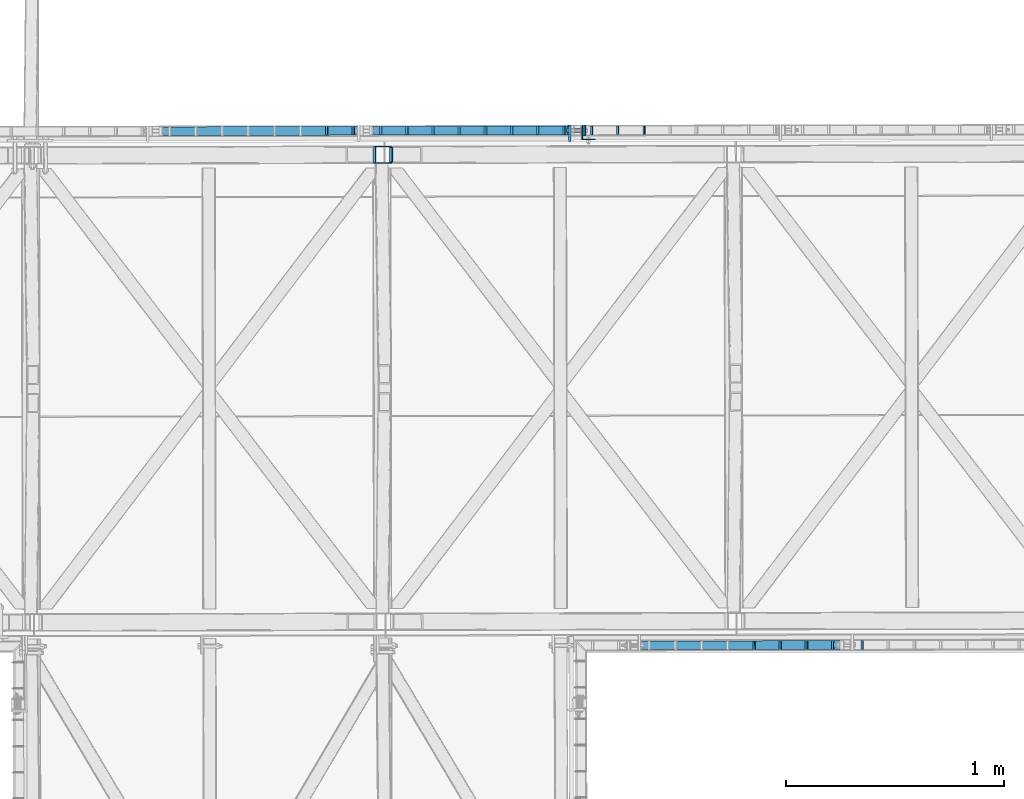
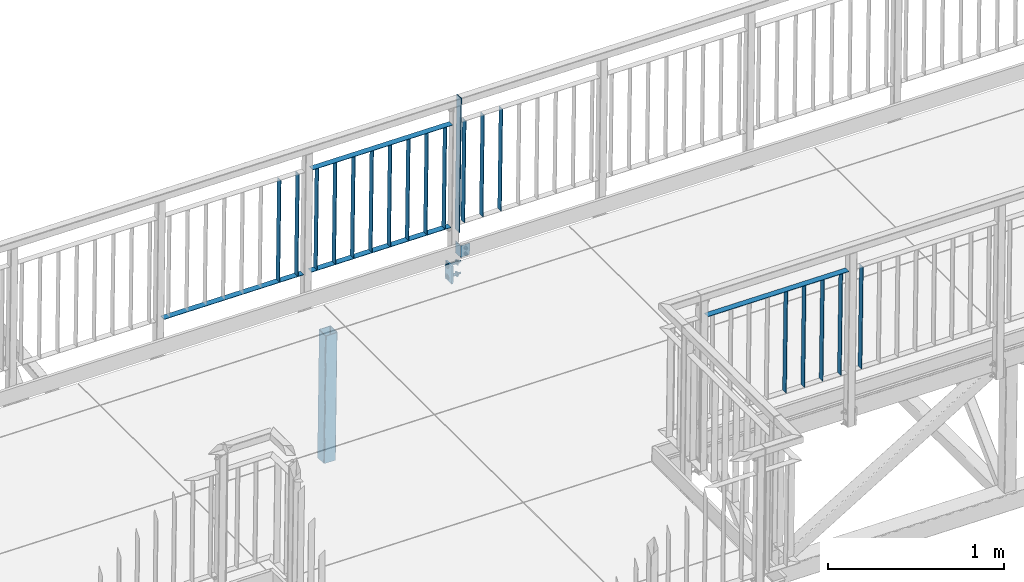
# One storey, part 113 of 169: 26 discrete accessories, 1 mechanical fastener, 3 elements without a shape of their own.
"""IFC2X3 building model written with IfcOpenShell, lengths in millimetres."""

from ifc_helpers import new_model, si_unit, frame, origin_with_axes, origin_2d_with_axis, place, context, subcontext, project, spatial, polyline, rectangle, hollow_rectangle, circle, l_section, outline, extrude, boolean, clip, halfspace, source, transform, mapped, material, type_object, element, aggregate, save


model = new_model("IFC2X3")

# Units and contexts
model_context = context("Model", 3, precision=1e-05, world=origin_with_axes())
body_context = subcontext(model_context, "Body", "Model", "MODEL_VIEW")
ifc_project = project(units=[si_unit("LENGTHUNIT", "METRE", prefix="MILLI"), si_unit("AREAUNIT", "SQUARE_METRE"), si_unit("VOLUMEUNIT", "CUBIC_METRE"), si_unit("MASSUNIT", "GRAM", prefix="KILO"), si_unit("TIMEUNIT", "SECOND"), si_unit("PLANEANGLEUNIT", "RADIAN"), si_unit("SOLIDANGLEUNIT", "STERADIAN"), si_unit("THERMODYNAMICTEMPERATUREUNIT", "DEGREE_CELSIUS"), si_unit("LUMINOUSINTENSITYUNIT", "LUMEN")], contexts=[model_context])

# Site, building, storey
site_placement = place(None, origin_with_axes())
site = spatial("IfcSite", under=ifc_project, at=site_placement, Name="Undefined", CompositionType="ELEMENT")
building_placement = place(site_placement, origin_with_axes())
building = spatial("IfcBuilding", under=site, at=building_placement, Name="Undefined", CompositionType="ELEMENT")
storey_placement = place(building_placement, origin_with_axes())
storey = spatial("IfcBuildingStorey", under=building, at=storey_placement, Name="Undefined", CompositionType="ELEMENT", Elevation=0.0)

# Assembly, discrete accessory
assembly_1_placement = place(storey_placement, origin_with_axes())
assembly_1 = element("IfcElementAssembly", 1, at=assembly_1_placement, inside=storey, Name="Steel Assembly", AssemblyPlace="NOTDEFINED", PredefinedType="RIGID_FRAME")
ifc_material_1 = material(Name="STEEL/S235")
discrete_accessory_type_1 = type_object("IfcDiscreteAccessoryType", Name="BLACHA")
discrete_accessory_1_placement = place(assembly_1_placement, frame((10187.6681587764, 2324.01646528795, 13824.692284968), z_axis=(0.9999174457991, 0.00186469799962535, -0.0127131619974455), x_axis=(-0.0018648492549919, 0.999998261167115, -4.2996762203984e-08)))
discrete_accessory_1 = element("IfcDiscreteAccessory", 2, at=discrete_accessory_1_placement, type_object=discrete_accessory_type_1, material=ifc_material_1, Name="BLACHA", ObjectType="BL10*120", context=body_context, shape_type="SweptSolid", body=[
    extrude(outline(polyline([(-5.35749222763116e-11, -59.9999999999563), (5.3567816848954e-11, 59.9999999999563), (75.0000002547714, 59.9999999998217), (75.0000002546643, -60.0000000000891), (-5.35749222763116e-11, -59.9999999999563)])), frame((-1.81898926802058e-12, -1.18000176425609e-16, -5.00000000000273), z_axis=(0.0, 0.0, 1.0), x_axis=(1.0, 0.0, 0.0)), (0.0, 0.0, 1.0), 10.0),
])

# Assembly, discrete accessories
assembly_2_placement = place(storey_placement, origin_with_axes())
assembly_2 = element("IfcElementAssembly", 3, at=assembly_2_placement, inside=storey, Name="Steel Assembly", AssemblyPlace="NOTDEFINED", PredefinedType="RIGID_FRAME")
discrete_accessory_2_placement = place(assembly_2_placement, frame((10248.3162514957, 2399.12970514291, 14082.940343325), z_axis=(-0.999917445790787, -0.00186469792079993, 0.0127131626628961), x_axis=(0.00186484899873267, -0.999998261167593, 4.28757666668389e-08)))
discrete_accessory_2 = element("IfcDiscreteAccessory", 4, at=discrete_accessory_2_placement, type_object=discrete_accessory_type_1, material=ifc_material_1, Name="BLACHA", ObjectType="BL5*50", context=body_context, shape_type="SweptSolid", body=[
    extrude(outline(polyline([(0.0, 0.0), (50.0000000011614, 3.27418092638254e-11), (50.0000000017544, 926.000000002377), (3.10365066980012e-08, 926.000000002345), (0.0, 0.0)])), frame((6.80888809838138e-19, -2.87858853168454e-21, -2.49999999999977), z_axis=(0.0, 0.0, 1.0), x_axis=(1.0, 0.0, 0.0)), (0.0, 0.0, 1.0), 5.0),
])
discrete_accessory_type_2 = type_object("IfcDiscreteAccessoryType", Name="BEAM")
discrete_accessory_3_placement = place(assembly_2_placement, frame((10273.8634563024, 2361.17727412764, 13923.6035833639), z_axis=(0.012713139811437, 2.3750999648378e-05, 0.999919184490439), x_axis=(0.9999174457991, 0.00186469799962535, -0.0127131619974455)))
discrete_accessory_3 = element("IfcDiscreteAccessory", 5, at=discrete_accessory_3_placement, type_object=discrete_accessory_type_2, material=ifc_material_1, Name="BEAM", ObjectType="L60*3", context=body_context, shape_type="SweptSolid", body=[
    extrude(l_section(Depth=60.0, Width=60.0, Thickness=3.0, FilletRadius=4.5, at=origin_2d_with_axis()), frame((-1.81898940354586e-12, 2.86403015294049e-19, 80.0000000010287), z_axis=(-2.54700353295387e-10, 0.0, -1.0), x_axis=(0.0, 1.0, 0.0)), (0.0, 0.0, 1.0), 80.0),
])

# Discrete accessory
ifc_material_2 = material(Name="STEEL/S355")
discrete_accessory_4_placement = place(assembly_1_placement, frame((9325.85926292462, 2262.4092764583, 12835.5699974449), z_axis=(-0.999917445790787, -0.00186469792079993, 0.0127131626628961), x_axis=(0.012713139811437, 2.3750999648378e-05, 0.999919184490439)))
discrete_accessory_4 = element("IfcDiscreteAccessory", 6, at=discrete_accessory_4_placement, type_object=discrete_accessory_type_2, material=ifc_material_2, Name="BEAM", ObjectType="K80/4", context=body_context, shape_type="Clipping", body=[
    clip(clip(extrude(hollow_rectangle(XDim=80.0, YDim=80.0, WallThickness=4.0, InnerFilletRadius=4.0, OuterFilletRadius=8.0, at=origin_2d_with_axis()), frame((940.000112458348, 4.54747487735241e-13, 0.0), z_axis=(-1.0, -3.46944695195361e-18, -1.38777878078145e-17), x_axis=(1.73472347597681e-18, -1.0, 0.0)), (0.0, 0.0, 1.0), 880.0), halfspace(frame((940.000112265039, -6.72889655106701e-09, 999.999999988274), z_axis=(-1.0, -3.46944695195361e-18, -1.38777878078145e-17), x_axis=(1.73472347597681e-18, -1.0, 0.0)), True)), halfspace(frame((60.0001122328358, 8.14088707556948e-09, 1000.00000001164), z_axis=(1.0, 0.0, 0.0), x_axis=(0.0, 1.0, 0.0)), True)),
])

aggregate(assembly_1, [discrete_accessory_1, discrete_accessory_4])

# Assembly, discrete accessory
assembly_3_placement = place(storey_placement, origin_with_axes())
assembly_3 = element("IfcElementAssembly", 7, at=assembly_3_placement, inside=storey, Name="Steel Assembly", AssemblyPlace="NOTDEFINED", PredefinedType="RIGID_FRAME")
discrete_accessory_type_3 = type_object("IfcDiscreteAccessoryType", Name="PORĘCZ")
discrete_accessory_5_placement = place(assembly_3_placement, frame((11534.6831120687, 16.5244800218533, 14967.7146750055), z_axis=(-0.0018648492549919, 0.999998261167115, -4.2996762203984e-08), x_axis=(-0.012713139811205, -2.37511238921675e-05, -0.999919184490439)))
discrete_accessory_5 = element("IfcDiscreteAccessory", 8, at=discrete_accessory_5_placement, type_object=discrete_accessory_type_3, material=ifc_material_1, Name="PORĘCZ", ObjectType="BL40*3", context=body_context, shape_type="Clipping", body=[
    clip(clip(extrude(rectangle(XDim=3.0, YDim=40.0, at=origin_2d_with_axis()), frame((848.500000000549, 1.47191286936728e-15, -8.89750592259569e-16), z_axis=(-1.0, -3.46944695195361e-18, -1.38777878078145e-17), x_axis=(1.73472347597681e-18, -1.0, 0.0)), (0.0, 0.0, 1.0), 702.0), halfspace(frame((848.499999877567, 4.522007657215e-09, 1000.00000000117), z_axis=(-1.0, -3.46944695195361e-18, -1.38777878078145e-17), x_axis=(1.73472347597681e-18, -1.0, 0.0)), True)), halfspace(frame((146.499999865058, 4.97311702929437e-09, 1000.00000000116), z_axis=(1.0, 0.0, 0.0), x_axis=(0.0, 1.0, 0.0)), True)),
])

# Discrete accessory
discrete_accessory_6_placement = place(assembly_2_placement, frame((9263.86162291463, 2372.29383204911, 14851.5186030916), z_axis=(-0.012713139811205, -2.37511238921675e-05, -0.999919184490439), x_axis=(0.9999174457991, 0.00186469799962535, -0.0127131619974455)))
discrete_accessory_6 = element("IfcDiscreteAccessory", 9, at=discrete_accessory_6_placement, type_object=discrete_accessory_type_3, material=ifc_material_1, Name="PORĘCZ", ObjectType="BL40*3", context=body_context, shape_type="CSG", body=[
    boolean("DIFFERENCE", boolean("DIFFERENCE", extrude(outline(polyline([(25.4999999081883, 20.0000000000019), (941.194458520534, 20.0000000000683), (941.194458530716, -19.9999999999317), (25.499999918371, -19.9999999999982), (25.4999999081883, 20.0000000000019)])), frame((1.81898940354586e-12, -1.77635442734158e-15, -1.50000000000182), z_axis=(0.0, 0.0, 1.0), x_axis=(1.0, 0.0, 0.0)), (0.0, 0.0, 1.0), 3.0), extrude(rectangle(XDim=51.0, YDim=51.0, at=origin_2d_with_axis()), frame((-5.94487782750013e-08, -4.65977194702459e-09, -139.999999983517), z_axis=(0.0, 0.0, 1.0), x_axis=(1.0, 0.0, 0.0)), (0.0, 0.0, 1.0), 280.0)), extrude(rectangle(XDim=51.0, YDim=51.0, at=origin_2d_with_axis()), frame((966.694458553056, -6.96000839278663e-09, -139.999999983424), z_axis=(0.0, 0.0, 1.0), x_axis=(1.0, 0.0, 0.0)), (0.0, 0.0, 1.0), 280.0)),
])

discrete_accessory_7_placement = place(assembly_2_placement, frame((9082.37293483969, 2371.95538875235, 14998.8378078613), z_axis=(0.00186484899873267, -0.999998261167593, 4.28757666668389e-08), x_axis=(-0.012713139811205, -2.37511238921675e-05, -0.999919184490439)))
discrete_accessory_7 = element("IfcDiscreteAccessory", 10, at=discrete_accessory_7_placement, type_object=discrete_accessory_type_3, material=ifc_material_1, Name="PORĘCZ", ObjectType="BL40*3", context=body_context, shape_type="Clipping", body=[
    clip(clip(extrude(rectangle(XDim=3.0, YDim=40.0, at=origin_2d_with_axis()), frame((848.500000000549, 1.47191286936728e-15, -8.89750592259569e-16), z_axis=(-1.0, -3.46944695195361e-18, -1.38777878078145e-17), x_axis=(1.73472347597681e-18, -1.0, 0.0)), (0.0, 0.0, 1.0), 702.0), halfspace(frame((848.499999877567, 4.522007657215e-09, 1000.00000000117), z_axis=(-1.0, -3.46944695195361e-18, -1.38777878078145e-17), x_axis=(1.73472347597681e-18, -1.0, 0.0)), True)), halfspace(frame((146.499999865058, 4.97311702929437e-09, 1000.00000000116), z_axis=(1.0, 0.0, 0.0), x_axis=(0.0, 1.0, 0.0)), True)),
])

discrete_accessory_8_placement = place(assembly_2_placement, frame((9202.36302833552, 2372.17915251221, 14997.3122284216), z_axis=(0.00186484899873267, -0.999998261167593, 4.28757666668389e-08), x_axis=(-0.012713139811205, -2.37511238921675e-05, -0.999919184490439)))
discrete_accessory_8 = element("IfcDiscreteAccessory", 11, at=discrete_accessory_8_placement, type_object=discrete_accessory_type_3, material=ifc_material_1, Name="PORĘCZ", ObjectType="BL40*3", context=body_context, shape_type="Clipping", body=[
    clip(clip(extrude(rectangle(XDim=3.0, YDim=40.0, at=origin_2d_with_axis()), frame((848.500000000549, 1.47191286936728e-15, -8.89750592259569e-16), z_axis=(-1.0, -3.46944695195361e-18, -1.38777878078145e-17), x_axis=(1.73472347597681e-18, -1.0, 0.0)), (0.0, 0.0, 1.0), 702.0), halfspace(frame((848.499999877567, 4.522007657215e-09, 1000.00000000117), z_axis=(-1.0, -3.46944695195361e-18, -1.38777878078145e-17), x_axis=(1.73472347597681e-18, -1.0, 0.0)), True)), halfspace(frame((146.499999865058, 4.97311702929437e-09, 1000.00000000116), z_axis=(1.0, 0.0, 0.0), x_axis=(0.0, 1.0, 0.0)), True)),
])

discrete_accessory_9_placement = place(assembly_2_placement, frame((9329.04702779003, 2372.41539941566, 14995.7015412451), z_axis=(0.00186484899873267, -0.999998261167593, 4.28757666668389e-08), x_axis=(-0.012713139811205, -2.37511238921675e-05, -0.999919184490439)))
discrete_accessory_9 = element("IfcDiscreteAccessory", 12, at=discrete_accessory_9_placement, type_object=discrete_accessory_type_3, material=ifc_material_1, Name="PORĘCZ", ObjectType="BL40*3", context=body_context, shape_type="Clipping", body=[
    clip(clip(extrude(rectangle(XDim=3.0, YDim=40.0, at=origin_2d_with_axis()), frame((848.500000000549, 1.47191286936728e-15, -8.89750592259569e-16), z_axis=(-1.0, -3.46944695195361e-18, -1.38777878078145e-17), x_axis=(1.73472347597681e-18, -1.0, 0.0)), (0.0, 0.0, 1.0), 702.0), halfspace(frame((848.499999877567, 4.522007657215e-09, 1000.00000000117), z_axis=(-1.0, -3.46944695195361e-18, -1.38777878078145e-17), x_axis=(1.73472347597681e-18, -1.0, 0.0)), True)), halfspace(frame((146.499999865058, 4.97311702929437e-09, 1000.00000000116), z_axis=(1.0, 0.0, 0.0), x_axis=(0.0, 1.0, 0.0)), True)),
])

discrete_accessory_10_placement = place(assembly_2_placement, frame((9449.03712128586, 2372.63916317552, 14994.1759618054), z_axis=(0.00186484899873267, -0.999998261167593, 4.28757666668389e-08), x_axis=(-0.012713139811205, -2.37511238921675e-05, -0.999919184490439)))
discrete_accessory_10 = element("IfcDiscreteAccessory", 13, at=discrete_accessory_10_placement, type_object=discrete_accessory_type_3, material=ifc_material_1, Name="PORĘCZ", ObjectType="BL40*3", context=body_context, shape_type="Clipping", body=[
    clip(clip(extrude(rectangle(XDim=3.0, YDim=40.0, at=origin_2d_with_axis()), frame((848.500000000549, 1.47191286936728e-15, -8.89750592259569e-16), z_axis=(-1.0, -3.46944695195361e-18, -1.38777878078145e-17), x_axis=(1.73472347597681e-18, -1.0, 0.0)), (0.0, 0.0, 1.0), 702.0), halfspace(frame((848.499999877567, 4.522007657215e-09, 1000.00000000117), z_axis=(-1.0, -3.46944695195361e-18, -1.38777878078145e-17), x_axis=(1.73472347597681e-18, -1.0, 0.0)), True)), halfspace(frame((146.499999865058, 4.97311702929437e-09, 1000.00000000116), z_axis=(1.0, 0.0, 0.0), x_axis=(0.0, 1.0, 0.0)), True)),
])

discrete_accessory_11_placement = place(assembly_2_placement, frame((9569.02721478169, 2372.86292693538, 14992.6503823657), z_axis=(0.00186484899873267, -0.999998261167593, 4.28757666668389e-08), x_axis=(-0.012713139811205, -2.37511238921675e-05, -0.999919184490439)))
discrete_accessory_11 = element("IfcDiscreteAccessory", 14, at=discrete_accessory_11_placement, type_object=discrete_accessory_type_3, material=ifc_material_1, Name="PORĘCZ", ObjectType="BL40*3", context=body_context, shape_type="Clipping", body=[
    clip(clip(extrude(rectangle(XDim=3.0, YDim=40.0, at=origin_2d_with_axis()), frame((848.500000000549, 1.47191286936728e-15, -8.89750592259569e-16), z_axis=(-1.0, -3.46944695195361e-18, -1.38777878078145e-17), x_axis=(1.73472347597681e-18, -1.0, 0.0)), (0.0, 0.0, 1.0), 702.0), halfspace(frame((848.499999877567, 4.522007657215e-09, 1000.00000000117), z_axis=(-1.0, -3.46944695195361e-18, -1.38777878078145e-17), x_axis=(1.73472347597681e-18, -1.0, 0.0)), True)), halfspace(frame((146.499999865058, 4.97311702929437e-09, 1000.00000000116), z_axis=(1.0, 0.0, 0.0), x_axis=(0.0, 1.0, 0.0)), True)),
])

discrete_accessory_12_placement = place(assembly_2_placement, frame((9689.01730827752, 2373.08669069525, 14991.124802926), z_axis=(0.00186484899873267, -0.999998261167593, 4.28757666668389e-08), x_axis=(-0.012713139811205, -2.37511238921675e-05, -0.999919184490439)))
discrete_accessory_12 = element("IfcDiscreteAccessory", 15, at=discrete_accessory_12_placement, type_object=discrete_accessory_type_3, material=ifc_material_1, Name="PORĘCZ", ObjectType="BL40*3", context=body_context, shape_type="Clipping", body=[
    clip(clip(extrude(rectangle(XDim=3.0, YDim=40.0, at=origin_2d_with_axis()), frame((848.500000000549, 1.47191286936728e-15, -8.89750592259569e-16), z_axis=(-1.0, -3.46944695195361e-18, -1.38777878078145e-17), x_axis=(1.73472347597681e-18, -1.0, 0.0)), (0.0, 0.0, 1.0), 702.0), halfspace(frame((848.499999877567, 4.522007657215e-09, 1000.00000000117), z_axis=(-1.0, -3.46944695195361e-18, -1.38777878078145e-17), x_axis=(1.73472347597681e-18, -1.0, 0.0)), True)), halfspace(frame((146.499999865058, 4.97311702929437e-09, 1000.00000000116), z_axis=(1.0, 0.0, 0.0), x_axis=(0.0, 1.0, 0.0)), True)),
])

discrete_accessory_13_placement = place(assembly_2_placement, frame((9809.00740177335, 2373.31045445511, 14989.5992234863), z_axis=(0.00186484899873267, -0.999998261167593, 4.28757666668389e-08), x_axis=(-0.012713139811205, -2.37511238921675e-05, -0.999919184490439)))
discrete_accessory_13 = element("IfcDiscreteAccessory", 16, at=discrete_accessory_13_placement, type_object=discrete_accessory_type_3, material=ifc_material_1, Name="PORĘCZ", ObjectType="BL40*3", context=body_context, shape_type="Clipping", body=[
    clip(clip(extrude(rectangle(XDim=3.0, YDim=40.0, at=origin_2d_with_axis()), frame((848.500000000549, 1.47191286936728e-15, -8.89750592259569e-16), z_axis=(-1.0, -3.46944695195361e-18, -1.38777878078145e-17), x_axis=(1.73472347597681e-18, -1.0, 0.0)), (0.0, 0.0, 1.0), 702.0), halfspace(frame((848.499999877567, 4.522007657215e-09, 1000.00000000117), z_axis=(-1.0, -3.46944695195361e-18, -1.38777878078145e-17), x_axis=(1.73472347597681e-18, -1.0, 0.0)), True)), halfspace(frame((146.499999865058, 4.97311702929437e-09, 1000.00000000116), z_axis=(1.0, 0.0, 0.0), x_axis=(0.0, 1.0, 0.0)), True)),
])

discrete_accessory_14_placement = place(assembly_2_placement, frame((9928.99749526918, 2373.53421821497, 14988.0736440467), z_axis=(0.00186484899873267, -0.999998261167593, 4.28757666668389e-08), x_axis=(-0.012713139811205, -2.37511238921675e-05, -0.999919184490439)))
discrete_accessory_14 = element("IfcDiscreteAccessory", 17, at=discrete_accessory_14_placement, type_object=discrete_accessory_type_3, material=ifc_material_1, Name="PORĘCZ", ObjectType="BL40*3", context=body_context, shape_type="Clipping", body=[
    clip(clip(extrude(rectangle(XDim=3.0, YDim=40.0, at=origin_2d_with_axis()), frame((848.500000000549, 1.47191286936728e-15, -8.89750592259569e-16), z_axis=(-1.0, -3.46944695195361e-18, -1.38777878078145e-17), x_axis=(1.73472347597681e-18, -1.0, 0.0)), (0.0, 0.0, 1.0), 702.0), halfspace(frame((848.499999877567, 4.522007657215e-09, 1000.00000000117), z_axis=(-1.0, -3.46944695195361e-18, -1.38777878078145e-17), x_axis=(1.73472347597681e-18, -1.0, 0.0)), True)), halfspace(frame((146.499999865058, 4.97311702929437e-09, 1000.00000000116), z_axis=(1.0, 0.0, 0.0), x_axis=(0.0, 1.0, 0.0)), True)),
])

discrete_accessory_15_placement = place(assembly_2_placement, frame((10048.987588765, 2373.75798197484, 14986.548064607), z_axis=(0.00186484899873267, -0.999998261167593, 4.28757666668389e-08), x_axis=(-0.012713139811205, -2.37511238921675e-05, -0.999919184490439)))
discrete_accessory_15 = element("IfcDiscreteAccessory", 18, at=discrete_accessory_15_placement, type_object=discrete_accessory_type_3, material=ifc_material_1, Name="PORĘCZ", ObjectType="BL40*3", context=body_context, shape_type="Clipping", body=[
    clip(clip(extrude(rectangle(XDim=3.0, YDim=40.0, at=origin_2d_with_axis()), frame((848.500000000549, 1.47191286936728e-15, -8.89750592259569e-16), z_axis=(-1.0, -3.46944695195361e-18, -1.38777878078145e-17), x_axis=(1.73472347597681e-18, -1.0, 0.0)), (0.0, 0.0, 1.0), 702.0), halfspace(frame((848.499999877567, 4.522007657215e-09, 1000.00000000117), z_axis=(-1.0, -3.46944695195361e-18, -1.38777878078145e-17), x_axis=(1.73472347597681e-18, -1.0, 0.0)), True)), halfspace(frame((146.499999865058, 4.97311702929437e-09, 1000.00000000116), z_axis=(1.0, 0.0, 0.0), x_axis=(0.0, 1.0, 0.0)), True)),
])

discrete_accessory_16_placement = place(assembly_2_placement, frame((10168.9776822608, 2373.9817457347, 14985.0224851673), z_axis=(0.00186484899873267, -0.999998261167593, 4.28757666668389e-08), x_axis=(-0.012713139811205, -2.37511238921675e-05, -0.999919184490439)))
discrete_accessory_16 = element("IfcDiscreteAccessory", 19, at=discrete_accessory_16_placement, type_object=discrete_accessory_type_3, material=ifc_material_1, Name="PORĘCZ", ObjectType="BL40*3", context=body_context, shape_type="Clipping", body=[
    clip(clip(extrude(rectangle(XDim=3.0, YDim=40.0, at=origin_2d_with_axis()), frame((848.500000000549, 1.47191286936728e-15, -8.89750592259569e-16), z_axis=(-1.0, -3.46944695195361e-18, -1.38777878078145e-17), x_axis=(1.73472347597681e-18, -1.0, 0.0)), (0.0, 0.0, 1.0), 702.0), halfspace(frame((848.499999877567, 4.522007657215e-09, 1000.00000000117), z_axis=(-1.0, -3.46944695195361e-18, -1.38777878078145e-17), x_axis=(1.73472347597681e-18, -1.0, 0.0)), True)), halfspace(frame((146.499999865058, 4.97311702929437e-09, 1000.00000000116), z_axis=(1.0, 0.0, 0.0), x_axis=(0.0, 1.0, 0.0)), True)),
])

discrete_accessory_17_placement = place(assembly_2_placement, frame((10295.6616817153, 2374.21799263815, 14983.4117979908), z_axis=(0.00186484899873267, -0.999998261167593, 4.28757666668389e-08), x_axis=(-0.012713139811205, -2.37511238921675e-05, -0.999919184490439)))
discrete_accessory_17 = element("IfcDiscreteAccessory", 20, at=discrete_accessory_17_placement, type_object=discrete_accessory_type_3, material=ifc_material_1, Name="PORĘCZ", ObjectType="BL40*3", context=body_context, shape_type="Clipping", body=[
    clip(clip(extrude(rectangle(XDim=3.0, YDim=40.0, at=origin_2d_with_axis()), frame((848.500000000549, 1.47191286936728e-15, -8.89750592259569e-16), z_axis=(-1.0, -3.46944695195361e-18, -1.38777878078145e-17), x_axis=(1.73472347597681e-18, -1.0, 0.0)), (0.0, 0.0, 1.0), 702.0), halfspace(frame((848.499999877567, 4.522007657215e-09, 1000.00000000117), z_axis=(-1.0, -3.46944695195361e-18, -1.38777878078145e-17), x_axis=(1.73472347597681e-18, -1.0, 0.0)), True)), halfspace(frame((146.499999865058, 4.97311702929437e-09, 1000.00000000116), z_axis=(1.0, 0.0, 0.0), x_axis=(0.0, 1.0, 0.0)), True)),
])

discrete_accessory_18_placement = place(assembly_2_placement, frame((10415.6517752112, 2374.44175639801, 14981.8862185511), z_axis=(0.00186484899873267, -0.999998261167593, 4.28757666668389e-08), x_axis=(-0.012713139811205, -2.37511238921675e-05, -0.999919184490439)))
discrete_accessory_18 = element("IfcDiscreteAccessory", 21, at=discrete_accessory_18_placement, type_object=discrete_accessory_type_3, material=ifc_material_1, Name="PORĘCZ", ObjectType="BL40*3", context=body_context, shape_type="Clipping", body=[
    clip(clip(extrude(rectangle(XDim=3.0, YDim=40.0, at=origin_2d_with_axis()), frame((848.500000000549, 1.47191286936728e-15, -8.89750592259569e-16), z_axis=(-1.0, -3.46944695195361e-18, -1.38777878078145e-17), x_axis=(1.73472347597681e-18, -1.0, 0.0)), (0.0, 0.0, 1.0), 702.0), halfspace(frame((848.499999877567, 4.522007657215e-09, 1000.00000000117), z_axis=(-1.0, -3.46944695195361e-18, -1.38777878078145e-17), x_axis=(1.73472347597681e-18, -1.0, 0.0)), True)), halfspace(frame((146.499999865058, 4.97311702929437e-09, 1000.00000000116), z_axis=(1.0, 0.0, 0.0), x_axis=(0.0, 1.0, 0.0)), True)),
])

discrete_accessory_19_placement = place(assembly_2_placement, frame((10535.641868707, 2374.66552015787, 14980.3606391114), z_axis=(0.00186484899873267, -0.999998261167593, 4.28757666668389e-08), x_axis=(-0.012713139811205, -2.37511238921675e-05, -0.999919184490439)))
discrete_accessory_19 = element("IfcDiscreteAccessory", 22, at=discrete_accessory_19_placement, type_object=discrete_accessory_type_3, material=ifc_material_1, Name="PORĘCZ", ObjectType="BL40*3", context=body_context, shape_type="Clipping", body=[
    clip(clip(extrude(rectangle(XDim=3.0, YDim=40.0, at=origin_2d_with_axis()), frame((848.500000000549, 1.47191286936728e-15, -8.89750592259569e-16), z_axis=(-1.0, -3.46944695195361e-18, -1.38777878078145e-17), x_axis=(1.73472347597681e-18, -1.0, 0.0)), (0.0, 0.0, 1.0), 702.0), halfspace(frame((848.499999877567, 4.522007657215e-09, 1000.00000000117), z_axis=(-1.0, -3.46944695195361e-18, -1.38777878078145e-17), x_axis=(1.73472347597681e-18, -1.0, 0.0)), True)), halfspace(frame((146.499999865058, 4.97311702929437e-09, 1000.00000000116), z_axis=(1.0, 0.0, 0.0), x_axis=(0.0, 1.0, 0.0)), True)),
])

discrete_accessory_20_placement = place(assembly_2_placement, frame((8288.28420541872, 2370.47449428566, 14158.8653212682), z_axis=(-0.012713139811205, -2.37511238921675e-05, -0.999919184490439), x_axis=(0.9999174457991, 0.00186469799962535, -0.0127131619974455)))
discrete_accessory_20 = element("IfcDiscreteAccessory", 23, at=discrete_accessory_20_placement, type_object=discrete_accessory_type_3, material=ifc_material_1, Name="PORĘCZ", ObjectType="BL40*3", context=body_context, shape_type="CSG", body=[
    boolean("DIFFERENCE", boolean("DIFFERENCE", extrude(outline(polyline([(25.4999999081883, 20.0000000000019), (941.194458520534, 20.0000000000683), (941.194458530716, -19.9999999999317), (25.499999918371, -19.9999999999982), (25.4999999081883, 20.0000000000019)])), frame((1.81898940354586e-12, -1.77635442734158e-15, -1.50000000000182), z_axis=(0.0, 0.0, 1.0), x_axis=(1.0, 0.0, 0.0)), (0.0, 0.0, 1.0), 3.0), extrude(rectangle(XDim=51.0, YDim=51.0, at=origin_2d_with_axis()), frame((-5.94487782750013e-08, -4.65977194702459e-09, -139.999999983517), z_axis=(0.0, 0.0, 1.0), x_axis=(1.0, 0.0, 0.0)), (0.0, 0.0, 1.0), 280.0)), extrude(rectangle(XDim=51.0, YDim=51.0, at=origin_2d_with_axis()), frame((966.694458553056, -6.96000839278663e-09, -139.999999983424), z_axis=(0.0, 0.0, 1.0), x_axis=(1.0, 0.0, 0.0)), (0.0, 0.0, 1.0), 280.0)),
])

discrete_accessory_21_placement = place(assembly_2_placement, frame((9254.8988593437, 2372.27708750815, 14146.5755780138), z_axis=(-0.012713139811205, -2.37511238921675e-05, -0.999919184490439), x_axis=(0.9999174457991, 0.00186469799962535, -0.0127131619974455)))
discrete_accessory_21 = element("IfcDiscreteAccessory", 24, at=discrete_accessory_21_placement, type_object=discrete_accessory_type_3, material=ifc_material_1, Name="PORĘCZ", ObjectType="BL40*3", context=body_context, shape_type="CSG", body=[
    boolean("DIFFERENCE", boolean("DIFFERENCE", extrude(outline(polyline([(25.4999999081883, 20.0000000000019), (941.194458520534, 20.0000000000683), (941.194458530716, -19.9999999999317), (25.499999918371, -19.9999999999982), (25.4999999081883, 20.0000000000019)])), frame((1.81898940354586e-12, -1.77635442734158e-15, -1.50000000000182), z_axis=(0.0, 0.0, 1.0), x_axis=(1.0, 0.0, 0.0)), (0.0, 0.0, 1.0), 3.0), extrude(rectangle(XDim=51.0, YDim=51.0, at=origin_2d_with_axis()), frame((-5.94487782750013e-08, -4.65977194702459e-09, -139.999999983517), z_axis=(0.0, 0.0, 1.0), x_axis=(1.0, 0.0, 0.0)), (0.0, 0.0, 1.0), 280.0)), extrude(rectangle(XDim=51.0, YDim=51.0, at=origin_2d_with_axis()), frame((966.694458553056, -6.96000839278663e-09, -139.999999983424), z_axis=(0.0, 0.0, 1.0), x_axis=(1.0, 0.0, 0.0)), (0.0, 0.0, 1.0), 280.0)),
])

discrete_accessory_22_placement = place(assembly_3_placement, frame((11475.3940756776, 16.4139084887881, 14823.4567691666), z_axis=(-0.012713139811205, -2.37511238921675e-05, -0.999919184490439), x_axis=(-0.999917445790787, -0.00186469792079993, 0.0127131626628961)))
discrete_accessory_22 = element("IfcDiscreteAccessory", 25, at=discrete_accessory_22_placement, type_object=discrete_accessory_type_3, material=ifc_material_1, Name="PORĘCZ", ObjectType="BL40*3", context=body_context, shape_type="CSG", body=[
    boolean("DIFFERENCE", boolean("DIFFERENCE", boolean("DIFFERENCE", boolean("DIFFERENCE", extrude(outline(polyline([(960.000000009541, -19.9999999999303), (35.0000000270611, -19.9999999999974), (35.0000000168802, 20.0000000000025), (959.999999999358, 20.0000000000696), (960.000000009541, -19.9999999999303)])), frame((1.81898940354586e-12, -1.77635442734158e-15, -1.50000000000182), z_axis=(0.0, 0.0, 1.0), x_axis=(1.0, 0.0, 0.0)), (0.0, 0.0, 1.0), 3.0), extrude(rectangle(XDim=51.0, YDim=51.0, at=origin_2d_with_axis()), frame((-5.94487782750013e-08, -4.65977194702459e-09, -139.999999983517), z_axis=(0.0, 0.0, 1.0), x_axis=(1.0, 0.0, 0.0)), (0.0, 0.0, 1.0), 280.0)), extrude(rectangle(XDim=51.0, YDim=51.0, at=origin_2d_with_axis()), frame((998.099252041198, 3.51939400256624e-08, -140.00000001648), z_axis=(0.0, 0.0, 1.0), x_axis=(1.0, 0.0, 0.0)), (0.0, 0.0, 1.0), 280.0)), halfspace(frame((34.9999997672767, 1000.00000000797, -5.00222085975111e-09), z_axis=(1.0, 0.0, 0.0), x_axis=(-2.54700353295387e-10, 0.0, -1.0)), True)), halfspace(frame((959.999999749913, 999.999999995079, 2.57205101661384e-09), z_axis=(-1.0, -3.46944695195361e-18, -1.38777878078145e-17), x_axis=(0.0, 0.0, 1.0)), True)),
])

discrete_accessory_23_placement = place(assembly_3_placement, frame((11399.6942568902, 16.2727457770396, 14969.4309518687), z_axis=(-0.0018648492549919, 0.999998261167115, -4.2996762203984e-08), x_axis=(-0.012713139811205, -2.37511238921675e-05, -0.999919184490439)))
discrete_accessory_23 = element("IfcDiscreteAccessory", 26, at=discrete_accessory_23_placement, type_object=discrete_accessory_type_3, material=ifc_material_1, Name="PORĘCZ", ObjectType="BL40*3", context=body_context, shape_type="Clipping", body=[
    clip(clip(extrude(rectangle(XDim=3.0, YDim=40.0, at=origin_2d_with_axis()), frame((848.500000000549, 1.47191286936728e-15, -8.89750592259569e-16), z_axis=(-1.0, -3.46944695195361e-18, -1.38777878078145e-17), x_axis=(1.73472347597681e-18, -1.0, 0.0)), (0.0, 0.0, 1.0), 702.0), halfspace(frame((848.499999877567, 4.522007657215e-09, 1000.00000000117), z_axis=(-1.0, -3.46944695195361e-18, -1.38777878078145e-17), x_axis=(1.73472347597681e-18, -1.0, 0.0)), True)), halfspace(frame((146.499999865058, 4.97311702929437e-09, 1000.00000000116), z_axis=(1.0, 0.0, 0.0), x_axis=(0.0, 1.0, 0.0)), True)),
])

discrete_accessory_24_placement = place(assembly_3_placement, frame((11279.7041633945, 16.0489820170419, 14970.9565313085), z_axis=(-0.0018648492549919, 0.999998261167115, -4.2996762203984e-08), x_axis=(-0.012713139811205, -2.37511238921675e-05, -0.999919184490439)))
discrete_accessory_24 = element("IfcDiscreteAccessory", 27, at=discrete_accessory_24_placement, type_object=discrete_accessory_type_3, material=ifc_material_1, Name="PORĘCZ", ObjectType="BL40*3", context=body_context, shape_type="Clipping", body=[
    clip(clip(extrude(rectangle(XDim=3.0, YDim=40.0, at=origin_2d_with_axis()), frame((848.500000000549, 1.47191286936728e-15, -8.89750592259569e-16), z_axis=(-1.0, -3.46944695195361e-18, -1.38777878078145e-17), x_axis=(1.73472347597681e-18, -1.0, 0.0)), (0.0, 0.0, 1.0), 702.0), halfspace(frame((848.499999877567, 4.522007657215e-09, 1000.00000000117), z_axis=(-1.0, -3.46944695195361e-18, -1.38777878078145e-17), x_axis=(1.73472347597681e-18, -1.0, 0.0)), True)), halfspace(frame((146.499999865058, 4.97311702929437e-09, 1000.00000000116), z_axis=(1.0, 0.0, 0.0), x_axis=(0.0, 1.0, 0.0)), True)),
])

discrete_accessory_25_placement = place(assembly_3_placement, frame((11159.7140698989, 15.8252182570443, 14972.4821107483), z_axis=(-0.0018648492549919, 0.999998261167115, -4.2996762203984e-08), x_axis=(-0.012713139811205, -2.37511238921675e-05, -0.999919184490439)))
discrete_accessory_25 = element("IfcDiscreteAccessory", 28, at=discrete_accessory_25_placement, type_object=discrete_accessory_type_3, material=ifc_material_1, Name="PORĘCZ", ObjectType="BL40*3", context=body_context, shape_type="Clipping", body=[
    clip(clip(extrude(rectangle(XDim=3.0, YDim=40.0, at=origin_2d_with_axis()), frame((848.500000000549, 1.47191286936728e-15, -8.89750592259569e-16), z_axis=(-1.0, -3.46944695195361e-18, -1.38777878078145e-17), x_axis=(1.73472347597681e-18, -1.0, 0.0)), (0.0, 0.0, 1.0), 702.0), halfspace(frame((848.499999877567, 4.522007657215e-09, 1000.00000000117), z_axis=(-1.0, -3.46944695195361e-18, -1.38777878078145e-17), x_axis=(1.73472347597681e-18, -1.0, 0.0)), True)), halfspace(frame((146.499999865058, 4.97311702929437e-09, 1000.00000000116), z_axis=(1.0, 0.0, 0.0), x_axis=(0.0, 1.0, 0.0)), True)),
])

discrete_accessory_26_placement = place(assembly_3_placement, frame((11039.7239764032, 15.6014544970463, 14974.007690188), z_axis=(-0.0018648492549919, 0.999998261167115, -4.2996762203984e-08), x_axis=(-0.012713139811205, -2.37511238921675e-05, -0.999919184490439)))
discrete_accessory_26 = element("IfcDiscreteAccessory", 29, at=discrete_accessory_26_placement, type_object=discrete_accessory_type_3, material=ifc_material_1, Name="PORĘCZ", ObjectType="BL40*3", context=body_context, shape_type="Clipping", body=[
    clip(clip(extrude(rectangle(XDim=3.0, YDim=40.0, at=origin_2d_with_axis()), frame((848.500000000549, 1.47191286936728e-15, -8.89750592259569e-16), z_axis=(-1.0, -3.46944695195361e-18, -1.38777878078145e-17), x_axis=(1.73472347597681e-18, -1.0, 0.0)), (0.0, 0.0, 1.0), 702.0), halfspace(frame((848.499999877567, 4.522007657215e-09, 1000.00000000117), z_axis=(-1.0, -3.46944695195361e-18, -1.38777878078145e-17), x_axis=(1.73472347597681e-18, -1.0, 0.0)), True)), halfspace(frame((146.499999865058, 4.97311702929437e-09, 1000.00000000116), z_axis=(1.0, 0.0, 0.0), x_axis=(0.0, 1.0, 0.0)), True)),
])

aggregate(assembly_3, [discrete_accessory_5, discrete_accessory_22, discrete_accessory_23, discrete_accessory_24, discrete_accessory_25, discrete_accessory_26])

# Mechanical fastener
ifc_material_3 = material(Name="Undefined")
discrete_accessory_type_4 = type_object("IfcDiscreteAccessoryType", Name="Bolt assembly")
shared_shape = source(origin_with_axes(), body_context, "Body", "SweptSolid", [
    extrude(circle(Radius=9.0, at=origin_2d_with_axis()), frame((0.0, -4.90000000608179, 0.0), z_axis=(0.0, 1.0, 0.0), x_axis=(1.0, 0.0, 0.0)), (0.0, 0.0, 1.0), 10.0),
    extrude(circle(Radius=9.0, at=origin_2d_with_axis()), frame((0.0, 4.89999999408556, 0.0), z_axis=(0.0, 1.0, 0.0), x_axis=(1.0, 0.0, 0.0)), (0.0, 0.0, 1.0), 50.1),
    extrude(outline(polyline([(10.39230484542, 0.0), (5.19615242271, 9.00000000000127), (-5.19615242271, 9.00000000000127), (-10.39230484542, 0.0), (-5.19615242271, -9.00000000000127), (5.19615242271, -9.00000000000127), (10.39230484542, 0.0)])), frame((0.0, -15.5000000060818, 0.0), z_axis=(0.0, 1.0, 0.0), x_axis=(1.0, 0.0, 0.0)), (0.0, 0.0, 1.0), 7.5),
    extrude(circle(Radius=6.0, at=origin_2d_with_axis()), frame((0.0, -8.00000000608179, 0.0), z_axis=(0.0, 1.0, 0.0), x_axis=(1.0, 0.0, 0.0)), (0.0, 0.0, 1.0), 90.0),
    extrude(circle(Radius=18.5, at=origin_2d_with_axis()), frame((0.0, -8.00000000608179, 0.0), z_axis=(0.0, 1.0, 0.0), x_axis=(1.0, 0.0, 0.0)), (0.0, 0.0, 1.0), 3.0),
    extrude(circle(Radius=18.5, at=origin_2d_with_axis()), frame((0.0, 54.9999999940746, 0.0), z_axis=(0.0, 1.0, 0.0), x_axis=(1.0, 0.0, 0.0)), (0.0, 0.0, 1.0), 3.0),
    extrude(outline(polyline([(10.96965511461, 0.0), (5.484827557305, 9.50000000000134), (-5.484827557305, 9.50000000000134), (-10.96965511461, 0.0), (-5.484827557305, -9.50000000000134), (5.484827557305, -9.50000000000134), (10.96965511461, 0.0)])), frame((0.0, 57.9999999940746, 0.0), z_axis=(0.0, 1.0, 0.0), x_axis=(1.0, 0.0, 0.0)), (0.0, 0.0, 1.0), 10.0),
])
mechanical_fastener_placement = place(assembly_2_placement, frame((10187.5812728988, 2374.01638898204, 13825.1922424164), z_axis=(0.012712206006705, 0.000523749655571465, 0.999919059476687), x_axis=(0.00187120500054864, -0.999998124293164, 0.00050000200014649)))
mechanical_fastener = element("IfcMechanicalFastener", 30, at=mechanical_fastener_placement, type_object=discrete_accessory_type_4, material=ifc_material_3, Name="Bolt assembly", NominalDiameter=12.0, NominalLength=90.0, context=body_context, shape_type="MappedRepresentation", body=[
    mapped(shared_shape, transform((-1.15463194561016e-14, 5.45696821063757e-11, -39.9999999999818))),
    mapped(shared_shape, transform((8.88178419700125e-15, -5.54791768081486e-11, 39.99999999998))),
])

aggregate(assembly_2, [mechanical_fastener, discrete_accessory_3, discrete_accessory_2, discrete_accessory_6, discrete_accessory_7, discrete_accessory_8, discrete_accessory_9, discrete_accessory_10, discrete_accessory_11, discrete_accessory_12, discrete_accessory_13, discrete_accessory_14, discrete_accessory_15, discrete_accessory_16, discrete_accessory_17, discrete_accessory_18, discrete_accessory_19, discrete_accessory_20, discrete_accessory_21])

save(model, "model.ifc")
